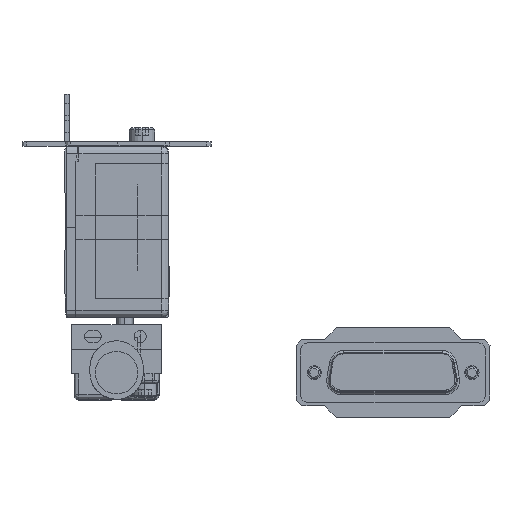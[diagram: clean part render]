
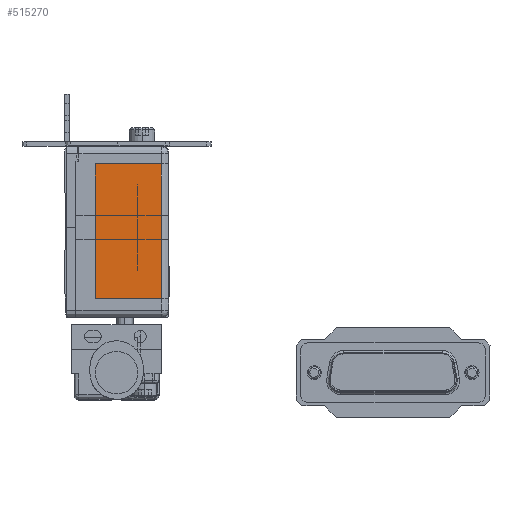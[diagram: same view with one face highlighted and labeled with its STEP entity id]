
A CAD part, left-side view. The second image highlights one B-rep face of the part: STEP entity #515270.
In plain terms, the highlighted planar face has unit normal (-1, 0, 0).
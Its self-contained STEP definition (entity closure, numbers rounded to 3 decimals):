
#514880=CARTESIAN_POINT('',(-662.7,3.267,5.907));
#514890=DIRECTION('',(-1.,0.,0.));
#514900=DIRECTION('',(0.,1.,0.));
#514910=AXIS2_PLACEMENT_3D('',#514880,#514890,#514900);
#514920=PLANE('',#514910);
#514930=CARTESIAN_POINT('',(-662.7,0.,4.
));
#514940=DIRECTION('',(0.,1.,0.));
#514950=VECTOR('',#514940,1.);
#514960=LINE('',#514930,#514950);
#514970=CARTESIAN_POINT('',(-662.7,1.5,4.));
#514980=VERTEX_POINT('',#514970);
#514990=CARTESIAN_POINT('',(-662.7,15.5,4.));
#515000=VERTEX_POINT('',#514990);
#515010=EDGE_CURVE('',#514980,#515000,#514960,.T.);
#515020=ORIENTED_EDGE('',*,*,#515010,.F.);
#515030=CARTESIAN_POINT('',(-662.7,15.5,4.));
#515040=DIRECTION('',(0.,0.,1.));
#515050=VECTOR('',#515040,1.);
#515060=LINE('',#515030,#515050);
#515070=CARTESIAN_POINT('',(-662.7,15.5,32.5));
#515080=VERTEX_POINT('',#515070);
#515090=EDGE_CURVE('',#515000,#515080,#515060,.T.);
#515100=ORIENTED_EDGE('',*,*,#515090,.F.);
#515110=CARTESIAN_POINT('',(-662.7,15.5,32.5));
#515120=DIRECTION('',(0.,-1.,0.));
#515130=VECTOR('',#515120,1.);
#515140=LINE('',#515110,#515130);
#515150=CARTESIAN_POINT('',(-662.7,1.5,32.5));
#515160=VERTEX_POINT('',#515150);
#515170=EDGE_CURVE('',#515080,#515160,#515140,.T.);
#515180=ORIENTED_EDGE('',*,*,#515170,.F.);
#515190=CARTESIAN_POINT('',(-662.7,1.5,36.5));
#515200=DIRECTION('',(0.,0.,-1.));
#515210=VECTOR('',#515200,1.);
#515220=LINE('',#515190,#515210);
#515230=EDGE_CURVE('',#515160,#514980,#515220,.T.);
#515240=ORIENTED_EDGE('',*,*,#515230,.F.);
#515250=EDGE_LOOP('',(#515240,#515180,#515100,#515020));
#515260=FACE_OUTER_BOUND('',#515250,.T.);
#515270=ADVANCED_FACE('',(#515260),#514920,.T.);
